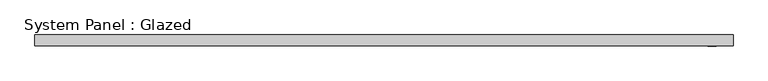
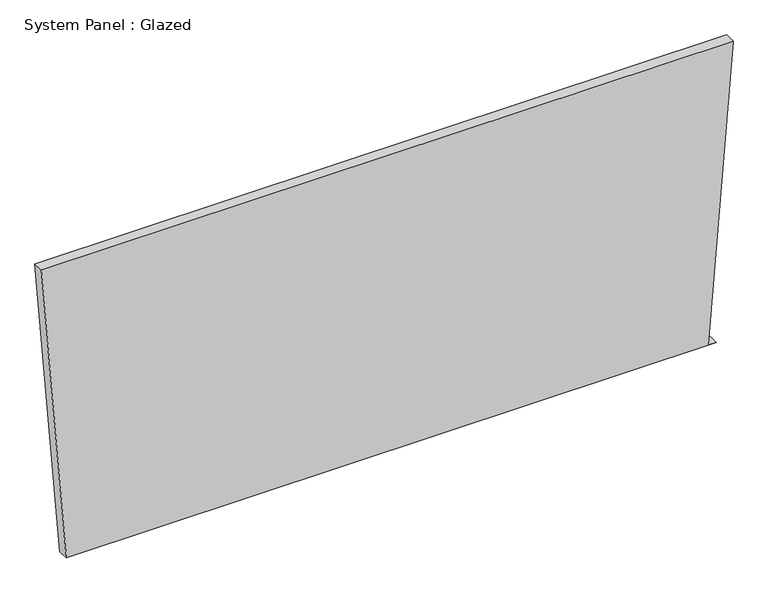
"""IFC4 building model written with IfcOpenShell, lengths in millimetres: plate geometry, System Panel : Glazed."""

import ifcopenshell
import ifcopenshell.guid

model = None  # the IFC model being written
_history = None  # IfcOwnerHistory: only IFC2X3 demands one
_inside = {}  # id of a spatial element -> (the spatial element, [elements in it])
_under = {}  # id of a project, library or spatial element -> (it, [spatial elements below it])
_declared = {}  # id of a project -> (the project, [libraries it declares])
_typed = {}  # id of a type object -> (the type object, [elements of that type])
_made_of = {}  # id of a material, layer set ... -> (it, [elements and type objects made of it])


def new_model(schema):
    """Start an empty IFC model of exactly this schema.

    Asked for "IFC4X3", IfcOpenShell would pick the latest addendum, in which some entities
    have other attributes; the version numbers below select the first issue.
    IFC2X3 requires an IfcOwnerHistory on every rooted entity: one is made here for all.
    """
    global model, _history
    if schema == "IFC4X3":
        model = ifcopenshell.file(schema_version=(4, 3, 0, 0))
    else:
        model = ifcopenshell.file(schema=schema)
    _inside.clear()
    _under.clear()
    _declared.clear()
    _typed.clear()
    _made_of.clear()
    _history = None
    if model.schema == "IFC2X3":
        org = make("IfcOrganization", Name="unknown")
        user = make(
            "IfcPersonAndOrganization",
            ThePerson=make("IfcPerson", FamilyName="unknown"),
            TheOrganization=org,
        )
        app = make(
            "IfcApplication",
            ApplicationDeveloper=org,
            Version="unknown",
            ApplicationFullName="unknown",
            ApplicationIdentifier="unknown",
        )
        _history = make(
            "IfcOwnerHistory",
            OwningUser=user,
            OwningApplication=app,
            ChangeAction="ADDED",
            CreationDate=0,
        )
    return model


def make(cls, **values):
    """One entity of the class cls with the attributes given. An attribute that is None is left unset."""
    return model.create_entity(
        cls, **{name: value for name, value in values.items() if value is not None}
    )


def rooted(cls, **values):
    """An entity with a GlobalId (a new one), such as an element, a storey or a relation."""
    return make(cls, GlobalId=ifcopenshell.guid.new(), OwnerHistory=_history, **values)


def si_unit(unit_type, name, prefix=None):
    """IfcSIUnit, for example si_unit("LENGTHUNIT", "METRE", prefix="MILLI")."""
    return make("IfcSIUnit", UnitType=unit_type, Prefix=prefix, Name=name)


def assignment(units):
    """IfcUnitAssignment: the units of a project."""
    return None if units is None else make("IfcUnitAssignment", Units=units)


def point(xyz):
    """IfcCartesianPoint."""
    return None if xyz is None else make("IfcCartesianPoint", Coordinates=xyz)


def direction(xyz):
    """IfcDirection."""
    return None if xyz is None else make("IfcDirection", DirectionRatios=xyz)


def frame(location, z_axis=None, x_axis=None):
    """IfcAxis2Placement3D, a coordinate frame: its origin and axes. An axis left out is left unset."""
    return make(
        "IfcAxis2Placement3D",
        Location=point(location),
        Axis=direction(z_axis),
        RefDirection=direction(x_axis),
    )


def origin():
    """The frame at (0, 0, 0) with its axes left unset."""
    return frame((0.0, 0.0, 0.0))


def place(relative_to, where):
    """IfcLocalPlacement: puts the frame where relative to a parent placement (None: the world)."""
    return make(
        "IfcLocalPlacement", PlacementRelTo=relative_to, RelativePlacement=where
    )


def context(
    kind, dimensions, precision=None, world=None, true_north=None, identifier=None
):
    """IfcGeometricRepresentationContext, for example the 3D "Model" context."""
    return make(
        "IfcGeometricRepresentationContext",
        ContextIdentifier=identifier,
        ContextType=kind,
        CoordinateSpaceDimension=dimensions,
        Precision=precision,
        WorldCoordinateSystem=world,
        TrueNorth=true_north,
    )


def project(units=None, contexts=None):
    """IfcProject with its units and contexts."""
    return rooted(
        "IfcProject",
        Name="project",
        RepresentationContexts=contexts,
        UnitsInContext=assignment(units),
    )


def spatial(cls, under=None, at=None, **own):
    """A site, building, storey or space (cls), placed at a placement, below another one or the project."""
    s = rooted(cls, ObjectPlacement=at, **own)
    if under is not None:
        _under.setdefault(under.id(), (under, []))[1].append(s)
    return s


def polyline(points):
    """IfcPolyline through the points."""
    return make("IfcPolyline", Points=[point(p) for p in points])


def outline(outer, holes=None, kind="AREA"):
    """IfcArbitraryClosedProfileDef: a profile drawn as a closed curve; with holes, ...WithVoids."""
    if holes is None:
        return make("IfcArbitraryClosedProfileDef", ProfileType=kind, OuterCurve=outer)
    return make(
        "IfcArbitraryProfileDefWithVoids",
        ProfileType=kind,
        OuterCurve=outer,
        InnerCurves=holes,
    )


def extrude(swept, where, along, depth):
    """IfcExtrudedAreaSolid: the profile swept, set in the frame where, extruded along a direction by depth."""
    return make(
        "IfcExtrudedAreaSolid",
        SweptArea=swept,
        Position=where,
        ExtrudedDirection=direction(along),
        Depth=depth,
    )


def shape(context_of_items, identifier, shape_type, items):
    """IfcShapeRepresentation: the items that make up one representation, for example the "Body"."""
    return make(
        "IfcShapeRepresentation",
        ContextOfItems=context_of_items,
        RepresentationIdentifier=identifier,
        RepresentationType=shape_type,
        Items=items,
    )


def source(mapping_origin, context_of_items, identifier, shape_type, items):
    """IfcRepresentationMap: a shape defined once, which mapped items show again and again."""
    return make(
        "IfcRepresentationMap",
        MappingOrigin=mapping_origin,
        MappedRepresentation=shape(context_of_items, identifier, shape_type, items),
    )


def transform(
    local_origin,
    x_axis=None,
    y_axis=None,
    z_axis=None,
    scale=None,
    scale2=None,
    scale3=None,
    uniform=True,
):
    """IfcCartesianTransformationOperator3D, or its non-uniform kind. x_axis, y_axis, z_axis: its Axis1, 2, 3."""
    if uniform:
        return make(
            "IfcCartesianTransformationOperator3D",
            Axis1=direction(x_axis),
            Axis2=direction(y_axis),
            LocalOrigin=point(local_origin),
            Scale=scale,
            Axis3=direction(z_axis),
        )
    return make(
        "IfcCartesianTransformationOperator3DnonUniform",
        Axis1=direction(x_axis),
        Axis2=direction(y_axis),
        LocalOrigin=point(local_origin),
        Scale=scale,
        Axis3=direction(z_axis),
        Scale2=scale2,
        Scale3=scale3,
    )


def mapped(mapping_source, mapping_target):
    """IfcMappedItem: shows the shape of a source again, moved by a transform."""
    return make(
        "IfcMappedItem", MappingSource=mapping_source, MappingTarget=mapping_target
    )


def made_of(thing, what):
    """Note that an element or type object is made of a material, layer set ...; save() writes the relation."""
    if what is not None:
        _made_of.setdefault(what.id(), (what, []))[1].append(thing)
    return thing


def element(
    cls,
    number,
    at=None,
    inside=None,
    cuts=None,
    type_object=None,
    material=None,
    context=None,
    identifier="Body",
    shape_type=None,
    held_by="IfcProductDefinitionShape",
    body=None,
    shapes=None,
    **own,
):
    """One element of the class cls, such as IfcWall. Its Tag is "e" and its number.

    at: its placement. inside: the storey or other place that contains it. cuts: it is an
    opening in that element (IfcRelVoidsElement). A single representation is given by context,
    identifier, shape_type and body (its items); several are given by shapes. held_by: the class
    of the entity that holds the representations. save() writes the other relations.
    """
    e = rooted(cls, Tag="e%d" % number, ObjectPlacement=at, **own)
    if body is not None:
        shapes = [shape(context, identifier, shape_type, body)]
    if shapes is not None:
        e.Representation = make(held_by, Representations=shapes)
    if inside is not None:
        _inside.setdefault(inside.id(), (inside, []))[1].append(e)
    if cuts is not None:
        rooted(
            "IfcRelVoidsElement", RelatingBuildingElement=cuts, RelatedOpeningElement=e
        )
    if type_object is not None:
        _typed.setdefault(type_object.id(), (type_object, []))[1].append(e)
    return made_of(e, material)


def aggregate(whole, parts):
    """IfcRelAggregates: a whole, such as a stair, and the parts it consists of."""
    return rooted("IfcRelAggregates", RelatingObject=whole, RelatedObjects=parts)


def save(model, path):
    """Write the relations noted so far, then the file.

    IfcRelAggregates (storeys below a building ...), IfcRelContainedInSpatialStructure (elements
    in a storey), IfcRelDefinesByType, IfcRelAssociatesMaterial and IfcRelDeclares: one each for
    every whole, place, type object, material and project.
    """
    for whole, parts in _under.values():
        aggregate(whole, parts)
    for where, things in _inside.values():
        rooted(
            "IfcRelContainedInSpatialStructure",
            RelatedElements=things,
            RelatingStructure=where,
        )
    for kind, things in _typed.values():
        rooted("IfcRelDefinesByType", RelatedObjects=things, RelatingType=kind)
    for what, things in _made_of.values():
        rooted("IfcRelAssociatesMaterial", RelatedObjects=things, RelatingMaterial=what)
    for by, libraries in _declared.values():
        rooted("IfcRelDeclares", RelatingContext=by, RelatedDefinitions=libraries)
    model.write(path)


def system_panel_glazed_1057b75c(model_context):
    return source(origin(), model_context, "Body", "SweptSolid", [
        extrude(outline(polyline([(0.0010743, -744.21782), (0.0, 763.3279358), (1.511099, 744.3379626), (726.1456085, 801.9996796), (726.1454153, -801.9996796), (0.0010743, -744.21782)])), frame((0.0, 19.05, 0.0), z_axis=(0.0, 1.0, 0.0), x_axis=(0.0, 0.0, 1.0)), (0.0, 0.0, 1.0), 25.4),
    ])


if __name__ == "__main__":
    model = new_model("IFC4")
    model_context = context("Model", 3, world=origin())
    ifc_project = project(units=[si_unit("LENGTHUNIT", "METRE", prefix="MILLI")], contexts=[model_context])
    site = spatial("IfcSite", under=ifc_project)
    building = spatial("IfcBuilding", under=site)
    placement = place(None, origin())
    system_panel_glazed_shape = system_panel_glazed_1057b75c(model_context)
    element("IfcPlate", 1, ObjectType="System Panel : Glazed", at=placement, inside=building, context=model_context, shape_type="MappedRepresentation", body=[
        mapped(system_panel_glazed_shape, transform((0.0, 0.0, 0.0), x_axis=(1.0, 0.0, 0.0), y_axis=(0.0, 1.0, 0.0), z_axis=(0.0, 0.0, 1.0))),
    ])
    save(model, "model.ifc")
